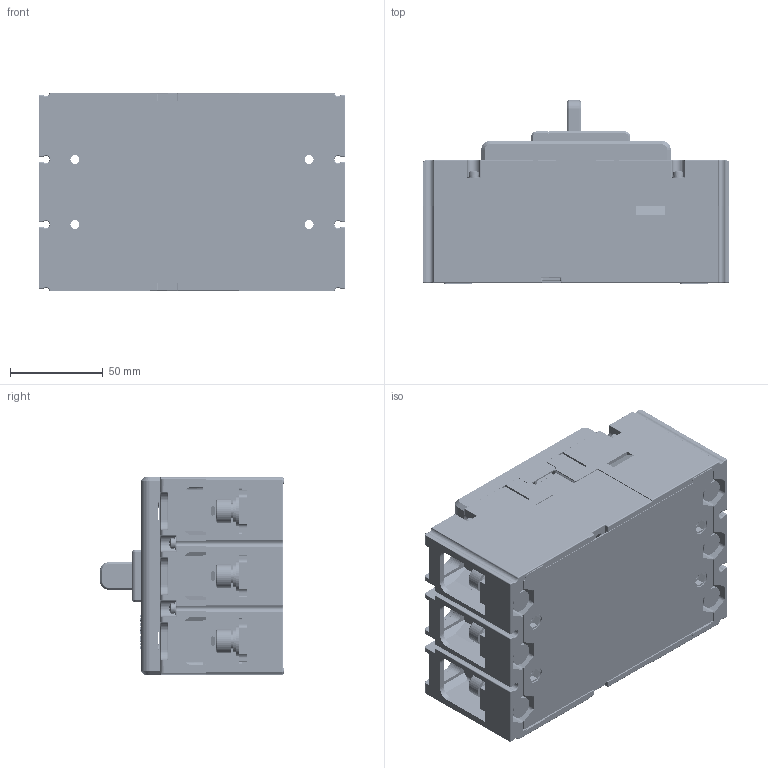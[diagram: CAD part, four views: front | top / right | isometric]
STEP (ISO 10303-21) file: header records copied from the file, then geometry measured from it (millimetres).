
FILE_DESCRIPTION((''),'2;1');
FILE_NAME('2253030000_ASM','2021-06-10T',('yan.shen'),(''),'PRO/ENGINEER BY PARAMETRIC TECHNOLOGY CORPORATION, 2015440','PRO/ENGINEER BY PARAMETRIC TECHNOLOGY CORPORATION, 2015440','');
FILE_SCHEMA(('CONFIG_CONTROL_DESIGN'));
Products named in the file (29): JZ-5024044300; GB_T809-M3X12; 5024044300_ASM; 8940007200; 8551033200; 8585064000; 8750030100; 8751002200; 8253076600; 5253029200_ASM; ZG-5315050000; GB_T809-M3X8; 5315050000_ASM; 8282018100_AF0; 8253077300; 5315051200_ASM; 8315095900; 7010100305R01_GB_T823_M3X10; 7090300201_GB_T93_3; GB_T97_4_3; 5850007700_ASM; 5315051400_ASM; 7030100225_GB_T9074_4-M3X30; 8742102700; GB_T70_1-M8X20; 7090200704_GB_T97_1_8; 7090370701K_GB_T93_8; 5850004100_ASM; 2253030000_ASM
Assembly tree (67 placements, depth 5):
  2253030000_ASM
    5024044300_ASM
      JZ-5024044300
      GB_T809-M3X12  x9
    8940007200  x6
    8551033200  x3
    8585064000  x3
    8750030100  x3
    8751002200  x3
    5253029200_ASM
      8253076600
    5315051400_ASM
      5315051200_ASM
        5315050000_ASM
          ZG-5315050000
          GB_T809-M3X8  x4
        8282018100_AF0
        8253077300
      8315095900
      5850007700_ASM  x4
        7010100305R01_GB_T823_M3X10
        7090300201_GB_T93_3
        GB_T97_4_3
    7030100225_GB_T9074_4-M3X30  x8
    8742102700
    5850004100_ASM  x6
      GB_T70_1-M8X20
      7090200704_GB_T97_1_8
      7090370701K_GB_T93_8
Bounding box: 165 x 99 x 107 mm (x, y, z)
Volume: 485359.8 mm3; surface area: 339600 mm2
Topology: 76 solids, 119 shells, 7369 faces, 18890 edges, 11912 vertices
Faces by surface type: plane 3644, cylinder 2461, torus 516, cone 258, sphere 211, extrusion 150, bspline 129
Entity records: 207445 total; most frequent: CARTESIAN_POINT 55998, ORIENTED_EDGE 31720, DIRECTION 31289, EDGE_CURVE 15878, VECTOR 10529, AXIS2_PLACEMENT_3D 10380, LINE 10379, VERTEX_POINT 10015
